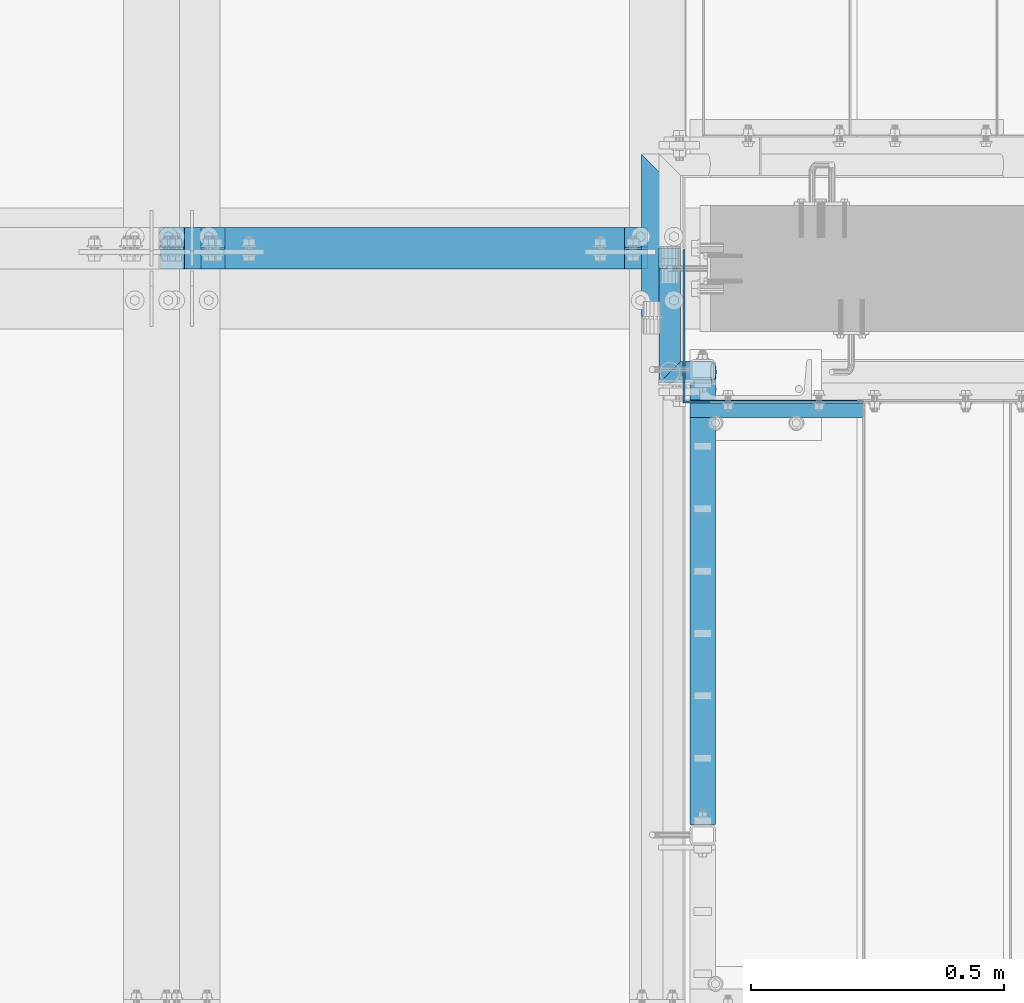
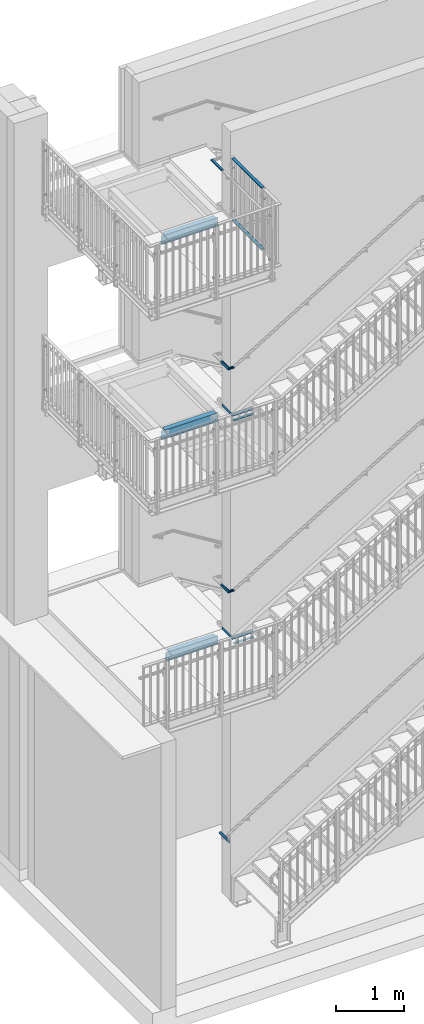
# One storey, part 41 of 410: 17 beams, 18 openings.
"""IFC2X3 building model written with IfcOpenShell, lengths in millimetres."""

from ifc_helpers import new_model, entity, si_unit, converted_unit, point, frame, frame_2d, origin, origin_with_axes, origin_2d, place, context, project, spatial, circle_curve, line_curve, trimmed, segment, composite_curve, rectangle, circle, hollow_circle, i_section, outline, extrude, clip, halfspace, material, element, save


model = new_model("IFC2X3")

# Units and contexts
model_context = context("Model", 3, precision=1e-09, world=origin_with_axes())
ifc_project = project(units=[si_unit("LENGTHUNIT", "METRE", prefix="MILLI"), si_unit("AREAUNIT", "SQUARE_METRE"), si_unit("VOLUMEUNIT", "CUBIC_METRE"), converted_unit("PLANEANGLEUNIT", "DEGREE", entity("IfcPlaneAngleMeasure", 0.01745329), si_unit("PLANEANGLEUNIT", "RADIAN"), dimensions=[0, 0, 0, 0, 0, 0, 0])], contexts=[model_context])

# Site, building, storey
site_placement = place(None, origin_with_axes())
site = spatial("IfcSite", under=ifc_project, at=site_placement, Name="mKR Teilneubau & Sanierung BA1 - Ostfildern", CompositionType="ELEMENT")
building_placement = place(site_placement, origin_with_axes())
building = spatial("IfcBuilding", under=site, at=building_placement, Name="Struktur 1", CompositionType="ELEMENT")
storey_placement = place(building_placement, origin_with_axes())
storey = spatial("IfcBuildingStorey", under=building, at=storey_placement, Name="Default Storey", CompositionType="ELEMENT", Elevation=0.0)

# Beam, openings
ifc_material = material(Name="S235JR")
beam_1_placement = place(None, frame((-1827.9485317, 17020.0, 3860.0), z_axis=(-1.0, 0.0, 0.0), x_axis=(0.0, -1.0, 0.0)))
beam_1 = element("IfcBeam", 1, at=beam_1_placement, inside=storey, material=ifc_material, Name="-", ObjectType="-", context=model_context, shape_type="SweptSolid", body=[
    extrude(i_section(OverallWidth=82.0, OverallDepth=160.0, WebThickness=5.0, FlangeThickness=7.4, FilletRadius=9.0, at=origin_2d()), origin(), (0.0, 0.0, 1.0), 964.1),
])
opening_1_placement = place(beam_1_placement, frame((-141.1, 59.999, 917.049), z_axis=(-1.0, 0.0, 0.0), x_axis=(0.0, -0.707106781, 0.707106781)))
element("IfcOpeningElement", 2, at=opening_1_placement, cuts=beam_1, ObjectType="Opening", context=model_context, shape_type="SweptSolid", body=[
    extrude(outline(composite_curve([segment(trimmed(circle_curve(frame_2d((3.535533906, 3.535533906), x_axis=(1.0, 0.0)), 5.0), [point((0.0, 0.0))], [point((7.071067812, 0.0))], True, "CARTESIAN"), True, "CONTINUOUS"), segment(trimmed(line_curve((7.071067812, 0.0), (0.707106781, 0.707106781), 50.275947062), [point((7.071067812, 0.0))], [point((42.62153091, 35.550463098))], True, "CARTESIAN"), True, "CONTINUOUS"), segment(trimmed(circle_curve(frame_2d((39.085997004, 39.085997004), x_axis=(1.0, 0.0)), 5.0), [point((42.62153091, 35.550463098))], [point((42.62153091, 42.62153091))], True, "CARTESIAN"), True, "CONTINUOUS"), segment(trimmed(line_curve((42.62153091, 42.62153091), (-0.707106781, 0.707106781), 28.45899753), [point((42.62153091, 42.62153091))], [point((22.49798077, 62.745081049))], True, "CARTESIAN"), True, "CONTINUOUS"), segment(trimmed(circle_curve(frame_2d((18.962446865, 59.209547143), x_axis=(1.0, 0.0)), 5.0), [point((22.49798077, 62.745081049))], [point((15.426912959, 62.745081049))], True, "CARTESIAN"), True, "CONTINUOUS"), segment(trimmed(line_curve((15.426912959, 62.745081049), (-0.707106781, -0.707106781), 50.275947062), [point((15.426912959, 62.745081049))], [point((-20.123550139, 27.194617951))], True, "CARTESIAN"), True, "CONTINUOUS"), segment(trimmed(circle_curve(frame_2d((-16.588016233, 23.659084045), x_axis=(1.0, 0.0)), 5.0), [point((-20.123550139, 27.194617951))], [point((-20.123550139, 20.123550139))], True, "CARTESIAN"), True, "CONTINUOUS"), segment(trimmed(line_curve((-20.123550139, 20.123550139), (0.707106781, -0.707106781), 28.45899753), [point((-20.123550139, 20.123550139))], [point((0.0, 0.0))], True, "CARTESIAN"), True, "CONTINUOUS")], self_intersect=False)), origin(), (0.0, 0.0, -1.0), 282.2),
])
opening_2_placement = place(beam_1_placement, frame((-141.1, 59.999, -16.27912247), z_axis=(-1.0, 0.0, 0.0), x_axis=(0.0, -0.707106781, 0.707106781)))
element("IfcOpeningElement", 3, at=opening_2_placement, cuts=beam_1, ObjectType="Opening", context=model_context, shape_type="SweptSolid", body=[
    extrude(outline(composite_curve([segment(trimmed(circle_curve(frame_2d((3.535533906, 3.535533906), x_axis=(1.0, 0.0)), 5.0), [point((0.0, 0.0))], [point((7.071067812, 0.0))], True, "CARTESIAN"), True, "CONTINUOUS"), segment(trimmed(line_curve((7.071067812, 0.0), (0.707106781, 0.707106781), 53.33012247), [point((7.071067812, 0.0))], [point((44.781159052, 37.71009124))], True, "CARTESIAN"), True, "CONTINUOUS"), segment(trimmed(circle_curve(frame_2d((41.245625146, 41.245625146), x_axis=(1.0, 0.0)), 5.0), [point((44.781159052, 37.71009124))], [point((44.781159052, 44.781159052))], True, "CARTESIAN"), True, "CONTINUOUS"), segment(trimmed(line_curve((44.781159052, 44.781159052), (-0.707106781, 0.707106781), 45.855644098), [point((44.781159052, 44.781159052))], [point((12.356322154, 77.205995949))], True, "CARTESIAN"), True, "CONTINUOUS"), segment(trimmed(circle_curve(frame_2d((8.820788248, 73.670462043), x_axis=(1.0, 0.0)), 5.0), [point((12.356322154, 77.205995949))], [point((5.285254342, 77.205995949))], True, "CARTESIAN"), True, "CONTINUOUS"), segment(trimmed(line_curve((5.285254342, 77.205995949), (-0.707106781, -0.707106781), 53.33012247), [point((5.285254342, 77.205995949))], [point((-32.424836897, 39.495904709))], True, "CARTESIAN"), True, "CONTINUOUS"), segment(trimmed(circle_curve(frame_2d((-28.889302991, 35.960370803), x_axis=(1.0, 0.0)), 5.0), [point((-32.424836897, 39.495904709))], [point((-32.424836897, 32.424836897))], True, "CARTESIAN"), True, "CONTINUOUS"), segment(trimmed(line_curve((-32.424836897, 32.424836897), (0.707106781, -0.707106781), 45.855644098), [point((-32.424836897, 32.424836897))], [point((0.0, 0.0))], True, "CARTESIAN"), True, "CONTINUOUS")], self_intersect=False)), origin(), (0.0, 0.0, -1.0), 282.2),
])
opening_3_placement = place(beam_1_placement, frame((-3.0, 0.0, 85.999), z_axis=(-1.0, 0.0, 0.0), x_axis=(0.0, -1.0, 0.0)))
element("IfcOpeningElement", 4, at=opening_3_placement, cuts=beam_1, ObjectType="Opening", context=model_context, shape_type="SweptSolid", body=[
    extrude(circle(Radius=9.001, at=frame_2d((0.0, 9.001), x_axis=(1.0, 0.0))), origin(), (0.0, 0.0, -1.0), 6.0),
])
opening_4_placement = place(beam_1_placement, frame((-3.0, 0.0, 20.999), z_axis=(-1.0, 0.0, 0.0), x_axis=(0.0, -1.0, 0.0)))
element("IfcOpeningElement", 5, at=opening_4_placement, cuts=beam_1, ObjectType="Opening", context=model_context, shape_type="SweptSolid", body=[
    extrude(circle(Radius=9.001, at=frame_2d((0.0, 9.001), x_axis=(1.0, 0.0))), origin(), (0.0, 0.0, -1.0), 6.0),
])
opening_5_placement = place(beam_1_placement, frame((-3.0, 0.0, 901.6), z_axis=(1.0, 0.0, 0.0), x_axis=(0.0, 0.0, -1.0)))
element("IfcOpeningElement", 6, at=opening_5_placement, cuts=beam_1, ObjectType="Opening", context=model_context, shape_type="SweptSolid", body=[
    extrude(circle(Radius=9.001, at=frame_2d((32.5, 0.0), x_axis=(1.0, 0.0))), origin(), (0.0, 0.0, 1.0), 6.0),
])
opening_6_placement = place(beam_1_placement, frame((-3.0, 0.0, 901.6), z_axis=(1.0, 0.0, 0.0), x_axis=(0.0, 0.0, -1.0)))
element("IfcOpeningElement", 7, at=opening_6_placement, cuts=beam_1, ObjectType="Opening", context=model_context, shape_type="SweptSolid", body=[
    extrude(circle(Radius=9.001, at=frame_2d((-32.5, 0.0), x_axis=(1.0, 0.0))), origin(), (0.0, 0.0, 1.0), 6.0),
])

beam_2_placement = place(None, frame((-1827.9485317, 17020.0, 7360.0), z_axis=(-1.0, 0.0, 0.0), x_axis=(0.0, -1.0, 0.0)))
beam_2 = element("IfcBeam", 8, at=beam_2_placement, inside=storey, material=ifc_material, Name="-", ObjectType="-", context=model_context, shape_type="SweptSolid", body=[
    extrude(i_section(OverallWidth=82.0, OverallDepth=160.0, WebThickness=5.0, FlangeThickness=7.4, FilletRadius=9.0, at=origin_2d()), origin(), (0.0, 0.0, 1.0), 964.1),
])
opening_7_placement = place(beam_2_placement, frame((-141.1, 59.999, 917.049), z_axis=(-1.0, 0.0, 0.0), x_axis=(0.0, -0.707106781, 0.707106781)))
element("IfcOpeningElement", 9, at=opening_7_placement, cuts=beam_2, ObjectType="Opening", context=model_context, shape_type="SweptSolid", body=[
    extrude(outline(composite_curve([segment(trimmed(circle_curve(frame_2d((3.535533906, 3.535533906), x_axis=(1.0, 0.0)), 5.0), [point((0.0, 0.0))], [point((7.071067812, 0.0))], True, "CARTESIAN"), True, "CONTINUOUS"), segment(trimmed(line_curve((7.071067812, 0.0), (0.707106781, 0.707106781), 50.275947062), [point((7.071067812, 0.0))], [point((42.62153091, 35.550463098))], True, "CARTESIAN"), True, "CONTINUOUS"), segment(trimmed(circle_curve(frame_2d((39.085997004, 39.085997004), x_axis=(1.0, 0.0)), 5.0), [point((42.62153091, 35.550463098))], [point((42.62153091, 42.62153091))], True, "CARTESIAN"), True, "CONTINUOUS"), segment(trimmed(line_curve((42.62153091, 42.62153091), (-0.707106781, 0.707106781), 28.45899753), [point((42.62153091, 42.62153091))], [point((22.49798077, 62.745081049))], True, "CARTESIAN"), True, "CONTINUOUS"), segment(trimmed(circle_curve(frame_2d((18.962446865, 59.209547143), x_axis=(1.0, 0.0)), 5.0), [point((22.49798077, 62.745081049))], [point((15.426912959, 62.745081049))], True, "CARTESIAN"), True, "CONTINUOUS"), segment(trimmed(line_curve((15.426912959, 62.745081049), (-0.707106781, -0.707106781), 50.275947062), [point((15.426912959, 62.745081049))], [point((-20.123550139, 27.194617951))], True, "CARTESIAN"), True, "CONTINUOUS"), segment(trimmed(circle_curve(frame_2d((-16.588016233, 23.659084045), x_axis=(1.0, 0.0)), 5.0), [point((-20.123550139, 27.194617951))], [point((-20.123550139, 20.123550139))], True, "CARTESIAN"), True, "CONTINUOUS"), segment(trimmed(line_curve((-20.123550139, 20.123550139), (0.707106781, -0.707106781), 28.45899753), [point((-20.123550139, 20.123550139))], [point((0.0, 0.0))], True, "CARTESIAN"), True, "CONTINUOUS")], self_intersect=False)), origin(), (0.0, 0.0, -1.0), 282.2),
])
opening_8_placement = place(beam_2_placement, frame((-141.1, 59.999, -16.27912247), z_axis=(-1.0, 0.0, 0.0), x_axis=(0.0, -0.707106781, 0.707106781)))
element("IfcOpeningElement", 10, at=opening_8_placement, cuts=beam_2, ObjectType="Opening", context=model_context, shape_type="SweptSolid", body=[
    extrude(outline(composite_curve([segment(trimmed(circle_curve(frame_2d((3.535533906, 3.535533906), x_axis=(1.0, 0.0)), 5.0), [point((0.0, 0.0))], [point((7.071067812, 0.0))], True, "CARTESIAN"), True, "CONTINUOUS"), segment(trimmed(line_curve((7.071067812, 0.0), (0.707106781, 0.707106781), 53.33012247), [point((7.071067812, 0.0))], [point((44.781159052, 37.71009124))], True, "CARTESIAN"), True, "CONTINUOUS"), segment(trimmed(circle_curve(frame_2d((41.245625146, 41.245625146), x_axis=(1.0, 0.0)), 5.0), [point((44.781159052, 37.71009124))], [point((44.781159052, 44.781159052))], True, "CARTESIAN"), True, "CONTINUOUS"), segment(trimmed(line_curve((44.781159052, 44.781159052), (-0.707106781, 0.707106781), 45.855644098), [point((44.781159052, 44.781159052))], [point((12.356322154, 77.205995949))], True, "CARTESIAN"), True, "CONTINUOUS"), segment(trimmed(circle_curve(frame_2d((8.820788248, 73.670462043), x_axis=(1.0, 0.0)), 5.0), [point((12.356322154, 77.205995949))], [point((5.285254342, 77.205995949))], True, "CARTESIAN"), True, "CONTINUOUS"), segment(trimmed(line_curve((5.285254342, 77.205995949), (-0.707106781, -0.707106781), 53.33012247), [point((5.285254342, 77.205995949))], [point((-32.424836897, 39.495904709))], True, "CARTESIAN"), True, "CONTINUOUS"), segment(trimmed(circle_curve(frame_2d((-28.889302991, 35.960370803), x_axis=(1.0, 0.0)), 5.0), [point((-32.424836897, 39.495904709))], [point((-32.424836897, 32.424836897))], True, "CARTESIAN"), True, "CONTINUOUS"), segment(trimmed(line_curve((-32.424836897, 32.424836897), (0.707106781, -0.707106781), 45.855644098), [point((-32.424836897, 32.424836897))], [point((0.0, 0.0))], True, "CARTESIAN"), True, "CONTINUOUS")], self_intersect=False)), origin(), (0.0, 0.0, -1.0), 282.2),
])
opening_9_placement = place(beam_2_placement, frame((-3.0, 0.0, 85.999), z_axis=(-1.0, 0.0, 0.0), x_axis=(0.0, -1.0, 0.0)))
element("IfcOpeningElement", 11, at=opening_9_placement, cuts=beam_2, ObjectType="Opening", context=model_context, shape_type="SweptSolid", body=[
    extrude(circle(Radius=9.001, at=frame_2d((0.0, 9.001), x_axis=(1.0, 0.0))), origin(), (0.0, 0.0, -1.0), 6.0),
])
opening_10_placement = place(beam_2_placement, frame((-3.0, 0.0, 20.999), z_axis=(-1.0, 0.0, 0.0), x_axis=(0.0, -1.0, 0.0)))
element("IfcOpeningElement", 12, at=opening_10_placement, cuts=beam_2, ObjectType="Opening", context=model_context, shape_type="SweptSolid", body=[
    extrude(circle(Radius=9.001, at=frame_2d((0.0, 9.001), x_axis=(1.0, 0.0))), origin(), (0.0, 0.0, -1.0), 6.0),
])
opening_11_placement = place(beam_2_placement, frame((-3.0, 0.0, 901.6), z_axis=(1.0, 0.0, 0.0), x_axis=(0.0, 0.0, -1.0)))
element("IfcOpeningElement", 13, at=opening_11_placement, cuts=beam_2, ObjectType="Opening", context=model_context, shape_type="SweptSolid", body=[
    extrude(circle(Radius=9.001, at=frame_2d((32.5, 0.0), x_axis=(1.0, 0.0))), origin(), (0.0, 0.0, 1.0), 6.0),
])
opening_12_placement = place(beam_2_placement, frame((-3.0, 0.0, 901.6), z_axis=(1.0, 0.0, 0.0), x_axis=(0.0, 0.0, -1.0)))
element("IfcOpeningElement", 14, at=opening_12_placement, cuts=beam_2, ObjectType="Opening", context=model_context, shape_type="SweptSolid", body=[
    extrude(circle(Radius=9.001, at=frame_2d((-32.5, 0.0), x_axis=(1.0, 0.0))), origin(), (0.0, 0.0, 1.0), 6.0),
])

beam_3_placement = place(None, frame((-1827.9485317, 17020.0, -140.0), z_axis=(-1.0, 0.0, 0.0), x_axis=(0.0, -1.0, 0.0)))
beam_3 = element("IfcBeam", 15, at=beam_3_placement, inside=storey, material=ifc_material, Name="-", ObjectType="-", context=model_context, shape_type="SweptSolid", body=[
    extrude(i_section(OverallWidth=82.0, OverallDepth=160.0, WebThickness=5.0, FlangeThickness=7.4, FilletRadius=9.0, at=origin_2d()), origin(), (0.0, 0.0, 1.0), 884.1),
])
opening_13_placement = place(beam_3_placement, frame((-141.1, 59.999, 837.049), z_axis=(-1.0, 0.0, 0.0), x_axis=(0.0, -0.707106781, 0.707106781)))
element("IfcOpeningElement", 16, at=opening_13_placement, cuts=beam_3, ObjectType="Opening", context=model_context, shape_type="SweptSolid", body=[
    extrude(outline(composite_curve([segment(trimmed(circle_curve(frame_2d((3.535533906, 3.535533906), x_axis=(1.0, 0.0)), 5.0), [point((0.0, 0.0))], [point((7.071067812, 0.0))], True, "CARTESIAN"), True, "CONTINUOUS"), segment(trimmed(line_curve((7.071067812, 0.0), (0.707106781, 0.707106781), 50.275947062), [point((7.071067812, 0.0))], [point((42.62153091, 35.550463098))], True, "CARTESIAN"), True, "CONTINUOUS"), segment(trimmed(circle_curve(frame_2d((39.085997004, 39.085997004), x_axis=(1.0, 0.0)), 5.0), [point((42.62153091, 35.550463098))], [point((42.62153091, 42.62153091))], True, "CARTESIAN"), True, "CONTINUOUS"), segment(trimmed(line_curve((42.62153091, 42.62153091), (-0.707106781, 0.707106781), 28.45899753), [point((42.62153091, 42.62153091))], [point((22.49798077, 62.745081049))], True, "CARTESIAN"), True, "CONTINUOUS"), segment(trimmed(circle_curve(frame_2d((18.962446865, 59.209547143), x_axis=(1.0, 0.0)), 5.0), [point((22.49798077, 62.745081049))], [point((15.426912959, 62.745081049))], True, "CARTESIAN"), True, "CONTINUOUS"), segment(trimmed(line_curve((15.426912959, 62.745081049), (-0.707106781, -0.707106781), 50.275947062), [point((15.426912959, 62.745081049))], [point((-20.123550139, 27.194617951))], True, "CARTESIAN"), True, "CONTINUOUS"), segment(trimmed(circle_curve(frame_2d((-16.588016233, 23.659084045), x_axis=(1.0, 0.0)), 5.0), [point((-20.123550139, 27.194617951))], [point((-20.123550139, 20.123550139))], True, "CARTESIAN"), True, "CONTINUOUS"), segment(trimmed(line_curve((-20.123550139, 20.123550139), (0.707106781, -0.707106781), 28.45899753), [point((-20.123550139, 20.123550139))], [point((0.0, 0.0))], True, "CARTESIAN"), True, "CONTINUOUS")], self_intersect=False)), origin(), (0.0, 0.0, -1.0), 282.2),
])
opening_14_placement = place(beam_3_placement, frame((-141.1, 59.999, -16.27912247), z_axis=(-1.0, 0.0, 0.0), x_axis=(0.0, -0.707106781, 0.707106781)))
element("IfcOpeningElement", 17, at=opening_14_placement, cuts=beam_3, ObjectType="Opening", context=model_context, shape_type="SweptSolid", body=[
    extrude(outline(composite_curve([segment(trimmed(circle_curve(frame_2d((3.535533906, 3.535533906), x_axis=(1.0, 0.0)), 5.0), [point((0.0, 0.0))], [point((7.071067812, 0.0))], True, "CARTESIAN"), True, "CONTINUOUS"), segment(trimmed(line_curve((7.071067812, 0.0), (0.707106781, 0.707106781), 53.33012247), [point((7.071067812, 0.0))], [point((44.781159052, 37.71009124))], True, "CARTESIAN"), True, "CONTINUOUS"), segment(trimmed(circle_curve(frame_2d((41.245625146, 41.245625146), x_axis=(1.0, 0.0)), 5.0), [point((44.781159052, 37.71009124))], [point((44.781159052, 44.781159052))], True, "CARTESIAN"), True, "CONTINUOUS"), segment(trimmed(line_curve((44.781159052, 44.781159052), (-0.707106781, 0.707106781), 45.855644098), [point((44.781159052, 44.781159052))], [point((12.356322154, 77.205995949))], True, "CARTESIAN"), True, "CONTINUOUS"), segment(trimmed(circle_curve(frame_2d((8.820788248, 73.670462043), x_axis=(1.0, 0.0)), 5.0), [point((12.356322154, 77.205995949))], [point((5.285254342, 77.205995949))], True, "CARTESIAN"), True, "CONTINUOUS"), segment(trimmed(line_curve((5.285254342, 77.205995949), (-0.707106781, -0.707106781), 53.33012247), [point((5.285254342, 77.205995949))], [point((-32.424836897, 39.495904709))], True, "CARTESIAN"), True, "CONTINUOUS"), segment(trimmed(circle_curve(frame_2d((-28.889302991, 35.960370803), x_axis=(1.0, 0.0)), 5.0), [point((-32.424836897, 39.495904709))], [point((-32.424836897, 32.424836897))], True, "CARTESIAN"), True, "CONTINUOUS"), segment(trimmed(line_curve((-32.424836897, 32.424836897), (0.707106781, -0.707106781), 45.855644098), [point((-32.424836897, 32.424836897))], [point((0.0, 0.0))], True, "CARTESIAN"), True, "CONTINUOUS")], self_intersect=False)), origin(), (0.0, 0.0, -1.0), 282.2),
])
opening_15_placement = place(beam_3_placement, frame((-3.0, 0.0, 85.999), z_axis=(-1.0, 0.0, 0.0), x_axis=(0.0, -1.0, 0.0)))
element("IfcOpeningElement", 18, at=opening_15_placement, cuts=beam_3, ObjectType="Opening", context=model_context, shape_type="SweptSolid", body=[
    extrude(circle(Radius=9.001, at=frame_2d((0.0, 9.001), x_axis=(1.0, 0.0))), origin(), (0.0, 0.0, -1.0), 6.0),
])
opening_16_placement = place(beam_3_placement, frame((-3.0, 0.0, 20.999), z_axis=(-1.0, 0.0, 0.0), x_axis=(0.0, -1.0, 0.0)))
element("IfcOpeningElement", 19, at=opening_16_placement, cuts=beam_3, ObjectType="Opening", context=model_context, shape_type="SweptSolid", body=[
    extrude(circle(Radius=9.001, at=frame_2d((0.0, 9.001), x_axis=(1.0, 0.0))), origin(), (0.0, 0.0, -1.0), 6.0),
])
opening_17_placement = place(beam_3_placement, frame((-3.0, 0.0, 821.6), z_axis=(1.0, 0.0, 0.0), x_axis=(0.0, 0.0, -1.0)))
element("IfcOpeningElement", 20, at=opening_17_placement, cuts=beam_3, ObjectType="Opening", context=model_context, shape_type="SweptSolid", body=[
    extrude(circle(Radius=9.001, at=frame_2d((32.5, 0.0), x_axis=(1.0, 0.0))), origin(), (0.0, 0.0, 1.0), 6.0),
])
opening_18_placement = place(beam_3_placement, frame((-3.0, 0.0, 821.6), z_axis=(1.0, 0.0, 0.0), x_axis=(0.0, 0.0, -1.0)))
element("IfcOpeningElement", 21, at=opening_18_placement, cuts=beam_3, ObjectType="Opening", context=model_context, shape_type="SweptSolid", body=[
    extrude(circle(Radius=9.001, at=frame_2d((-32.5, 0.0), x_axis=(1.0, 0.0))), origin(), (0.0, 0.0, 1.0), 6.0),
])

# Beams
beam_4_placement = place(None, frame((-1744.9975317, 16702.499999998, 3932.5), z_axis=(1.0, 0.0, 0.0), x_axis=(0.0, 0.0, 1.0)))
element("IfcBeam", 22, at=beam_4_placement, inside=storey, material=ifc_material, Name="-", ObjectType="-", context=model_context, shape_type="SweptSolid", body=[
    extrude(rectangle(XDim=15.0, YDim=35.0, at=origin_2d()), origin(), (0.0, 0.0, 1.0), 341.519669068),
])
beam_5_placement = place(None, frame((-1744.9975317, 16702.499999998, -67.5), z_axis=(1.0, 0.0, 0.0), x_axis=(0.0, 0.0, 1.0)))
element("IfcBeam", 23, at=beam_5_placement, inside=storey, material=ifc_material, Name="-", ObjectType="-", context=model_context, shape_type="SweptSolid", body=[
    extrude(rectangle(XDim=15.0, YDim=35.0, at=origin_2d()), origin(), (0.0, 0.0, 1.0), 342.695388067),
])
for number, where, z_axis, x_axis in (
    (24, (-1720.0485317, 15880.5, 8592.5), (0.0, -1.0, 0.0), (0.0, 0.0, -1.0)),
    (25, (-1720.0485317, 16759.5, 7492.5), (0.0, 1.0, 0.0), (0.0, 0.0, 1.0)),
):
    element("IfcBeam", number, at=place(None, frame(where, z_axis=z_axis, x_axis=x_axis)), inside=storey, material=ifc_material, Name="-", ObjectType="-", context=model_context, shape_type="SweptSolid", body=[
        extrude(rectangle(XDim=15.0, YDim=50.0, at=origin_2d()), origin(), (0.0, 0.0, -1.0), 879.0),
    ])
beam_6_placement = place(None, frame((-1784.998531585, 17020.0, -3641.2), z_axis=(0.0, 1.0, 0.0), x_axis=(-1.0, 0.0, 0.0)))
element("IfcBeam", 26, at=beam_6_placement, inside=storey, Name="-", ObjectType="-", context=model_context, shape_type="Clipping", body=[
    clip(extrude(hollow_circle(Radius=21.2, WallThickness=3.2, at=origin_2d()), origin(), (0.0, 0.0, -1.0), 287.4), halfspace(frame((-1784.998531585, -6566.900707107, -6811.899292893), z_axis=(0.0, -0.707106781, 0.707106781), x_axis=(1.0, 0.0, 0.0)), True)),
])
beam_7_placement = place(None, frame((-1403.999988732, 16716.000999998, 25.0), z_axis=(1.0, 5.634e-06, 0.0), x_axis=(-5.634e-06, 1.0, 0.0)))
element("IfcBeam", 27, at=beam_7_placement, inside=storey, material=ifc_material, Name="-", ObjectType="-", context=model_context, shape_type="SweptSolid", body=[
    extrude(rectangle(XDim=4.0, YDim=50.0, at=origin_2d()), origin(), (0.0, 0.0, -1.0), 354.999531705),
])
beam_8_placement = place(None, frame((-1404.0, 16715.998999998, 4025.0), z_axis=(1.0, 0.0, 0.0), x_axis=(0.0, 1.0, 0.0)))
element("IfcBeam", 28, at=beam_8_placement, inside=storey, material=ifc_material, Name="-", ObjectType="-", context=model_context, shape_type="SweptSolid", body=[
    extrude(rectangle(XDim=4.0, YDim=50.0, at=origin_2d()), origin(), (0.0, 0.0, -1.0), 354.9995317),
])
for number, where, z_axis, x_axis in (
    (29, (-1756.9995317, 16717.998999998, 4025.0), (0.0, -1.0, 0.0), (1.0, 0.0, 0.0)),
    (30, (-1756.9995317, 16717.998999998, 25.0), (0.0, -1.0, 0.0), (1.0, 0.0, 0.0)),
):
    element("IfcBeam", number, at=place(None, frame(where, z_axis=z_axis, x_axis=x_axis)), inside=storey, material=ifc_material, Name="-", ObjectType="-", context=model_context, shape_type="SweptSolid", body=[
        extrude(rectangle(XDim=4.0, YDim=50.0, at=origin_2d()), origin(), (0.0, 0.0, -1.0), 300.001000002),
    ])
beam_9_placement = place(None, frame((-1827.4, 16775.0, 4828.8), z_axis=(-1.0, 0.0, 0.0), x_axis=(0.0, -1.0, 0.0)))
element("IfcBeam", 31, at=beam_9_placement, inside=storey, Name="-", ObjectType="-", context=model_context, shape_type="Clipping", body=[
    clip(clip(extrude(hollow_circle(Radius=21.2, WallThickness=3.2, at=origin_2d()), origin(), (0.0, 0.0, -1.0), 159.422062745), halfspace(frame((16775.0, -4920.512231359, -1497.911602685), z_axis=(0.0, -0.268153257, 0.963376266), x_axis=(1.0, 0.0, 0.0)), True)), halfspace(frame((7495.000707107, -4828.8, 7452.599292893), z_axis=(0.707106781, 0.0, -0.707106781), x_axis=(-0.707106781, 0.0, -0.707106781)), True)),
])
beam_10_placement = place(None, frame((-1827.4, 16775.0, 828.8), z_axis=(-1.0, 0.0, 0.0), x_axis=(0.0, -1.0, 0.0)))
element("IfcBeam", 32, at=beam_10_placement, inside=storey, Name="-", ObjectType="-", context=model_context, shape_type="Clipping", body=[
    clip(clip(extrude(hollow_circle(Radius=21.2, WallThickness=3.2, at=origin_2d()), origin(), (0.0, 0.0, -1.0), 159.378755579), halfspace(frame((16775.0, -1206.729394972, -462.369949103), z_axis=(0.0, -0.266827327, 0.963744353), x_axis=(1.0, 0.0, 0.0)), True)), halfspace(frame((7495.000707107, -828.8, 7452.599292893), z_axis=(0.707106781, 0.0, -0.707106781), x_axis=(-0.707106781, 0.0, -0.707106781)), True)),
])
beam_11_placement = place(None, frame((-1785.0, 16980.000011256, 4828.799478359), z_axis=(0.0, 1.0, 0.0), x_axis=(-1.0, 0.0, 0.0)))
element("IfcBeam", 33, at=beam_11_placement, inside=storey, Name="-", ObjectType="-", context=model_context, shape_type="Clipping", body=[
    clip(extrude(hollow_circle(Radius=21.2, WallThickness=3.2, at=origin_2d()), origin(), (0.0, 0.0, -1.0), 247.400011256), halfspace(frame((7495.000707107, -4828.799478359, -7699.999304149), z_axis=(0.707106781, 0.0, 0.707106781), x_axis=(0.707106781, 0.0, -0.707106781)), True)),
])
beam_12_placement = place(None, frame((-1785.0, 16979.999999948, 828.799463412), z_axis=(0.0, 1.0, 0.0), x_axis=(-1.0, 0.0, 0.0)))
element("IfcBeam", 34, at=beam_12_placement, inside=storey, Name="-", ObjectType="-", context=model_context, shape_type="Clipping", body=[
    clip(extrude(hollow_circle(Radius=21.2, WallThickness=3.2, at=origin_2d()), origin(), (0.0, 0.0, -1.0), 247.399999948), halfspace(frame((7495.000707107, -828.799463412, -7699.999292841), z_axis=(0.707106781, 0.0, 0.707106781), x_axis=(0.707106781, 0.0, -0.707106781)), True)),
])
beam_13_placement = place(None, frame((-1820.0485317, 16885.0, 8328.8), z_axis=(0.0, -1.0, 0.0), x_axis=(1.0, 0.0, 0.0)))
element("IfcBeam", 35, at=beam_13_placement, inside=storey, Name="-", ObjectType="-", context=model_context, shape_type="Clipping", body=[
    clip(extrude(hollow_circle(Radius=21.2, WallThickness=3.2, at=origin_2d()), origin(), (0.0, 0.0, -1.0), 342.4), halfspace(frame((9502.523558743, -8328.8, 9202.524972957), z_axis=(-0.707106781, 0.0, 0.707106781), x_axis=(0.707106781, 0.0, 0.707106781)), True)),
])

save(model, "model.ifc")
